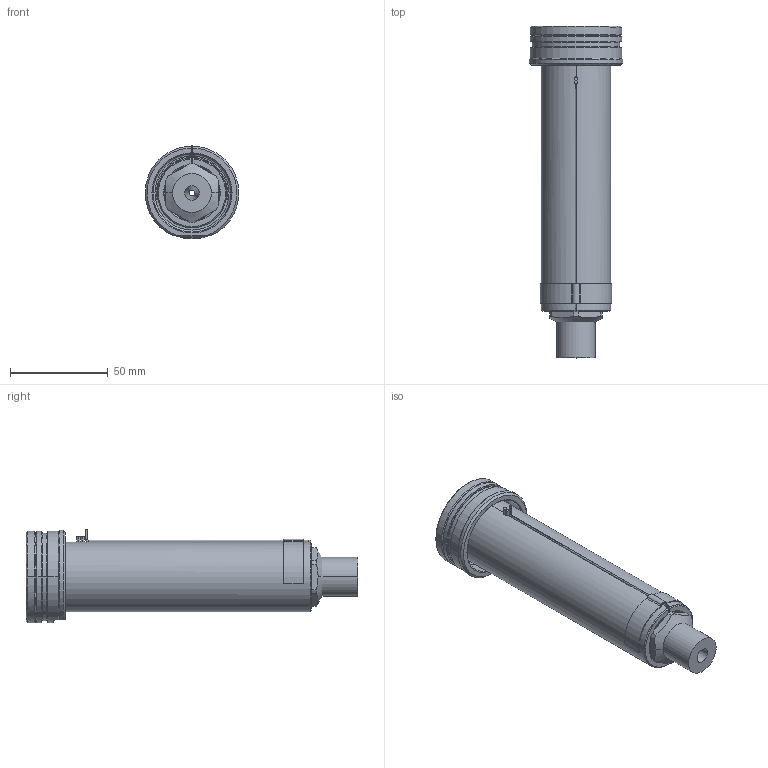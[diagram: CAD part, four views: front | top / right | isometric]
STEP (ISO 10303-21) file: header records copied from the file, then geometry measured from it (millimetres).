
FILE_DESCRIPTION((''),'2;1');
FILE_NAME('EO16_SG_ESG_140_SW','2024-02-19T12:35:39',('sundharh'),(''),'CREO PARAMETRIC BY PTC INC, 2023154','CREO PARAMETRIC BY PTC INC, 2023154','');
FILE_SCHEMA(('CONFIG_CONTROL_DESIGN'));
Length unit declared in the file: millimetre
Products named in the file (1): EO16_SG_ESG_140_SW
Bounding box: 47.97 x 170 x 48 mm (x, y, z)
Volume: 135643.8 mm3; surface area: 34027 mm2
Topology: 1 solids, 1 shells, 164 faces, 403 edges, 245 vertices
Faces by surface type: cylinder 64, plane 45, cone 31, torus 14, bspline 7, sphere 3
Entity records: 5573 total; most frequent: CARTESIAN_POINT 1642, DIRECTION 868, ORIENTED_EDGE 790, EDGE_CURVE 395, AXIS2_PLACEMENT_3D 358, VERTEX_POINT 245, CIRCLE 201, EDGE_LOOP 180
